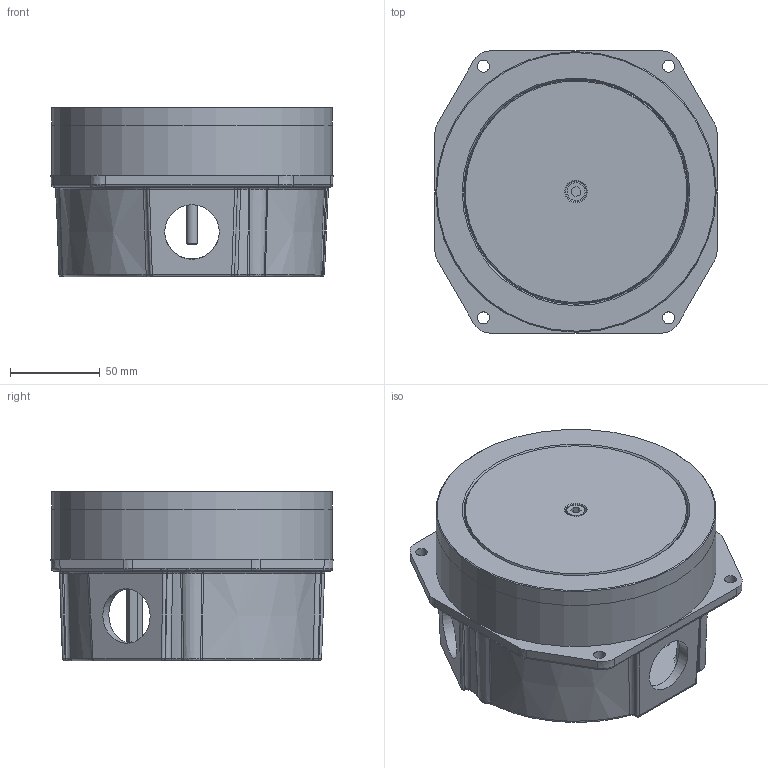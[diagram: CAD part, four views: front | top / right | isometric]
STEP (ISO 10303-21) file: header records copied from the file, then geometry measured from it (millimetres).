
FILE_DESCRIPTION(/* description */ (''),/* implementation_level */ '2;1');
FILE_NAME(/* name */ 'Fonto 5000_geschlossen.stp',/* time_stamp */ '2023-11-07T09:14:27+01:00',/* author */ ('stangass'),/* organization */ (''),/* preprocessor_version */ 'ST-DEVELOPER v19.2',/* originating_system */ 'Autodesk Inventor 2023',/* authorisation */ '');
FILE_SCHEMA (('AUTOMOTIVE_DESIGN { 1 0 10303 214 3 1 1 }'));
Products named in the file (19): 2140421_3DINV; 1735774_3DINV; #38437; DIN 125 - A 5,3; DIN 127 - A 5; 2311.250; 2040195_3DINV; 2040196; 2140424_3DINV; 2040270_3DINV; 2040205_3DINV; 912A2670; DIN 126 - 6,6; ISO 3601-1 - C 1180 G; 2040202_3DINV; IMS 1705016AKAFIGMUTTER M6 1,2 - 1,6 MM EDELSTAHL-KAFIG (1.4301)(1.2); 2040197_3DINV; DIN 912 - M5 x 8; Cylinder head screw DIN 912 M5x80 07000.050.080(High)
Assembly tree (29 placements, depth 2):
  2140421_3DINV
    1735774_3DINV
    #38437
    DIN 912 - M5 x 8  x5
    DIN 125 - A 5,3
    DIN 127 - A 5
    2311.250  x4
    2040195_3DINV
    2140424_3DINV  x2
    2040196
    2040270_3DINV
    2040205_3DINV
    912A2670
    DIN 126 - 6,6
    ISO 3601-1 - C 1180 G  x2
    2040202_3DINV
    IMS 1705016AKAFIGMUTTER M6 1,2 - 1,6 MM EDELSTAHL-KAFIG (1.4301)(1.2)
    2040197_3DINV
    Cylinder head screw DIN 912 M5x80 07000.050.080(High)  x3
Bounding box: 156.9 x 156.9 x 94.5 mm (x, y, z)
Volume: 774675.1 mm3; surface area: 283518.6 mm2
Topology: 29 solids, 29 shells, 911 faces, 2210 edges, 1354 vertices
Faces by surface type: plane 332, cylinder 243, bspline 180, cone 129, torus 27
Full cylindrical faces by diameter (mm): 3.683 x1, 3.708 x1, 4.134 x8, 4.521 x1, 4.917 x1, 5 x15, 5.2 x4, 5.207 x1, 5.3 x1, 5.5 x11, 6 x3, 6.6 x1, 6.647 x4, 8.5 x8, 10 x2, 11.5 x1, 12 x4, 30.376 x4, 108 x1, 109 x1, 116 x1, 117 x1, 119.7 x2, 124 x4, 125 x2, 140 x2, 144.6 x2, 156 x2
Entity records: 38404 total; most frequent: CARTESIAN_POINT 21066, ORIENTED_EDGE 3470, DIRECTION 3370, EDGE_CURVE 1735, AXIS2_PLACEMENT_3D 1325, VERTEX_POINT 1080, EDGE_LOOP 835, FACE_OUTER_BOUND 720
